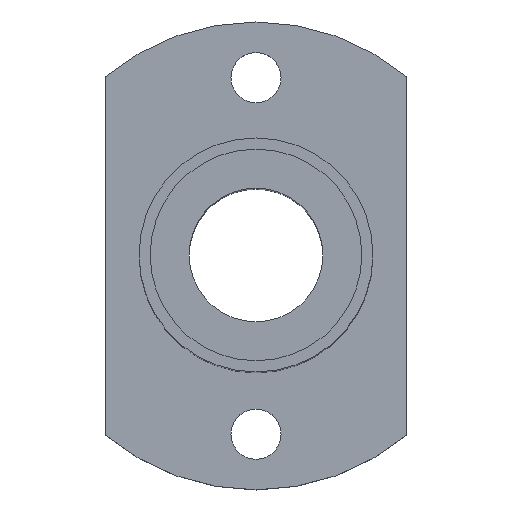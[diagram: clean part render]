
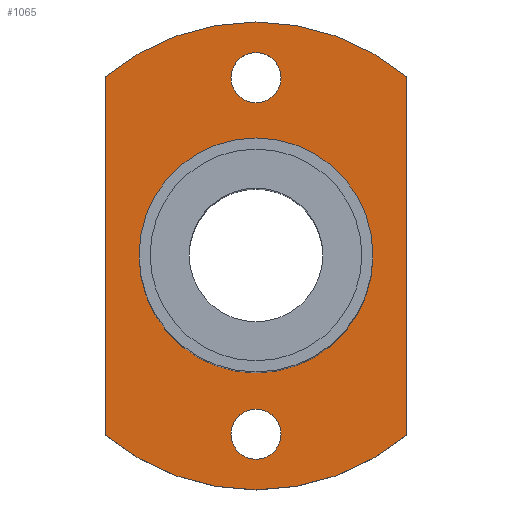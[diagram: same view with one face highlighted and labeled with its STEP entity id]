
A CAD part, top view. The second image highlights one B-rep face of the part: STEP entity #1065.
In plain terms, the highlighted planar face has unit normal (0, 0, 1).
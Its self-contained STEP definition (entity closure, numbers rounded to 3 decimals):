
#91=CARTESIAN_POINT('',(-2.,-10.856,6.0));
#92=VERTEX_POINT('',#91);
#101=CARTESIAN_POINT('',(19.,-10.856,6.));
#102=VERTEX_POINT('',#101);
#103=CARTESIAN_POINT('',(8.5,-10.856,6.));
#104=DIRECTION('',(0.0,0.0,-1.0));
#105=DIRECTION('',(-1.0,0.0,0.0));
#106=AXIS2_PLACEMENT_3D('',#103,#104,#105);
#107=CIRCLE('',#106,10.5);
#108=EDGE_CURVE('',#102,#92,#107,.T.);
#280=CARTESIAN_POINT('',(6.25,-26.856,6.));
#281=VERTEX_POINT('',#280);
#290=CARTESIAN_POINT('',(10.75,-26.856,6.));
#291=VERTEX_POINT('',#290);
#292=CARTESIAN_POINT('',(8.5,-26.856,6.));
#293=DIRECTION('',(0.0,0.0,-1.0));
#294=DIRECTION('',(-1.0,0.0,0.0));
#295=AXIS2_PLACEMENT_3D('',#292,#293,#294);
#296=CIRCLE('',#295,2.25);
#297=EDGE_CURVE('',#291,#281,#296,.T.);
#406=CARTESIAN_POINT('',(6.25,5.144,6.));
#407=VERTEX_POINT('',#406);
#416=CARTESIAN_POINT('',(10.75,5.144,6.));
#417=VERTEX_POINT('',#416);
#418=CARTESIAN_POINT('',(8.5,5.144,6.));
#419=DIRECTION('',(0.0,0.0,-1.0));
#420=DIRECTION('',(-1.0,0.0,0.0));
#421=AXIS2_PLACEMENT_3D('',#418,#419,#420);
#422=CIRCLE('',#421,2.25);
#423=EDGE_CURVE('',#417,#407,#422,.T.);
#600=CARTESIAN_POINT('',(8.5,5.144,6.));
#601=DIRECTION('',(0.0,0.0,-1.0));
#602=DIRECTION('',(-1.0,0.0,0.0));
#603=AXIS2_PLACEMENT_3D('',#600,#601,#602);
#604=CIRCLE('',#603,2.25);
#605=EDGE_CURVE('',#407,#417,#604,.T.);
#704=CARTESIAN_POINT('',(8.5,-26.856,6.));
#705=DIRECTION('',(0.0,0.0,-1.0));
#706=DIRECTION('',(-1.0,0.0,0.0));
#707=AXIS2_PLACEMENT_3D('',#704,#705,#706);
#708=CIRCLE('',#707,2.25);
#709=EDGE_CURVE('',#281,#291,#708,.T.);
#908=CARTESIAN_POINT('',(8.5,-10.856,6.));
#909=DIRECTION('',(0.0,0.0,-1.0));
#910=DIRECTION('',(-1.0,0.0,0.0));
#911=AXIS2_PLACEMENT_3D('',#908,#909,#910);
#912=CIRCLE('',#911,10.5);
#913=EDGE_CURVE('',#92,#102,#912,.T.);
#949=CARTESIAN_POINT('',(22.,-26.942,6.));
#950=VERTEX_POINT('',#949);
#951=CARTESIAN_POINT('',(-5.,-26.942,6.));
#952=VERTEX_POINT('',#951);
#953=CARTESIAN_POINT('',(8.5,-10.856,6.));
#954=DIRECTION('',(0.0,0.0,-1.));
#955=DIRECTION('',(-0.643,-0.766,0.0));
#956=AXIS2_PLACEMENT_3D('',#953,#954,#955);
#957=CIRCLE('',#956,21.);
#958=EDGE_CURVE('',#950,#952,#957,.T.);
#981=CARTESIAN_POINT('',(-5.0,5.229,6.));
#982=VERTEX_POINT('',#981);
#983=CARTESIAN_POINT('',(-5.,-26.942,6.));
#984=DIRECTION('',(0.0,1.0,0.0));
#985=VECTOR('',#984,32.171);
#986=LINE('',#983,#985);
#987=EDGE_CURVE('',#952,#982,#986,.T.);
#1005=CARTESIAN_POINT('',(22.0,5.229,6.));
#1006=VERTEX_POINT('',#1005);
#1007=CARTESIAN_POINT('',(8.5,-10.856,6.));
#1008=DIRECTION('',(0.0,0.0,-1.));
#1009=DIRECTION('',(0.643,0.766,0.0));
#1010=AXIS2_PLACEMENT_3D('',#1007,#1008,#1009);
#1011=CIRCLE('',#1010,21.);
#1012=EDGE_CURVE('',#982,#1006,#1011,.T.);
#1030=CARTESIAN_POINT('',(22.0,5.229,6.));
#1031=DIRECTION('',(0.0,-1.0,0.0));
#1032=VECTOR('',#1031,32.171);
#1033=LINE('',#1030,#1032);
#1034=EDGE_CURVE('',#1006,#950,#1033,.T.);
#1042=CARTESIAN_POINT('',(8.5,-10.856,6.));
#1043=DIRECTION('',(0.0,0.0,1.0));
#1044=DIRECTION('',(1.0,0.0,0.0));
#1045=AXIS2_PLACEMENT_3D('',#1042,#1043,#1044);
#1046=PLANE('',#1045);
#1047=ORIENTED_EDGE('',*,*,#958,.F.);
#1048=ORIENTED_EDGE('',*,*,#1034,.F.);
#1049=ORIENTED_EDGE('',*,*,#1012,.F.);
#1050=ORIENTED_EDGE('',*,*,#987,.F.);
#1051=EDGE_LOOP('',(#1047,#1048,#1049,#1050));
#1052=FACE_OUTER_BOUND('',#1051,.T.);
#1053=ORIENTED_EDGE('',*,*,#423,.T.);
#1054=ORIENTED_EDGE('',*,*,#605,.T.);
#1055=EDGE_LOOP('',(#1053,#1054));
#1056=FACE_BOUND('',#1055,.T.);
#1057=ORIENTED_EDGE('',*,*,#297,.T.);
#1058=ORIENTED_EDGE('',*,*,#709,.T.);
#1059=EDGE_LOOP('',(#1057,#1058));
#1060=FACE_BOUND('',#1059,.T.);
#1061=ORIENTED_EDGE('',*,*,#108,.T.);
#1062=ORIENTED_EDGE('',*,*,#913,.T.);
#1063=EDGE_LOOP('',(#1061,#1062));
#1064=FACE_BOUND('',#1063,.T.);
#1065=ADVANCED_FACE('',(#1052,#1056,#1060,#1064),#1046,.T.);
